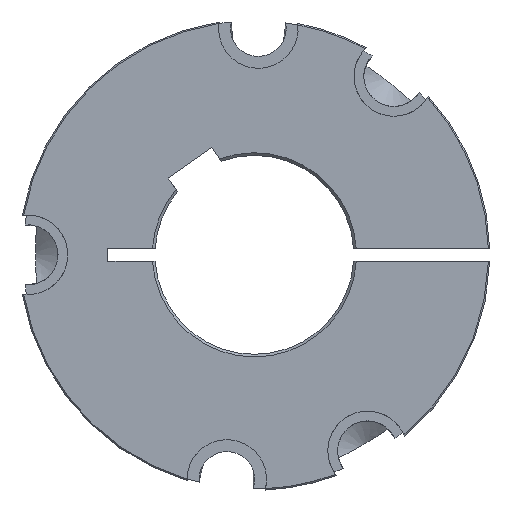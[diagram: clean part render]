
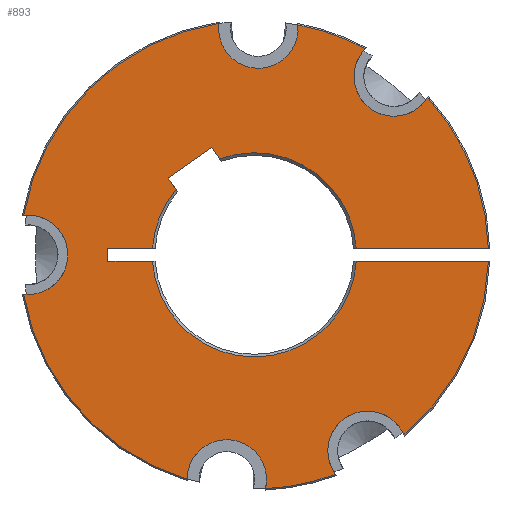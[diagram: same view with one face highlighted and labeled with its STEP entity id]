
A CAD part, left-side view. The second image highlights one B-rep face of the part: STEP entity #893.
In plain terms, the highlighted planar face has unit normal (-1, 0, 0).
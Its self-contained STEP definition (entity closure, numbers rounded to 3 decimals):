
#29=LINE('',#1469,#61);
#30=LINE('',#1473,#62);
#31=LINE('',#1475,#63);
#32=LINE('',#1477,#64);
#33=LINE('',#1481,#65);
#34=LINE('',#1485,#66);
#35=LINE('',#1489,#67);
#36=LINE('',#1493,#68);
#61=VECTOR('',#1110,49.806);
#62=VECTOR('',#1113,16.821);
#63=VECTOR('',#1114,5.);
#64=VECTOR('',#1115,16.821);
#65=VECTOR('',#1118,5.211);
#66=VECTOR('',#1121,19.98);
#67=VECTOR('',#1124,5.211);
#68=VECTOR('',#1127,49.806);
#173=FACE_OUTER_BOUND('',#224,.T.);
#224=EDGE_LOOP('',(#613,#614,#615,#616,#617,#618,#619,#620,#621,#622,#623,
#624,#625,#626,#627,#628,#629,#630,#631,#632,#633,#634,#635,#636));
#272=CIRCLE('',#945,15.);
#278=CIRCLE('',#954,15.);
#281=CIRCLE('',#959,88.26);
#282=CIRCLE('',#961,15.);
#283=CIRCLE('',#962,88.26);
#284=CIRCLE('',#963,88.26);
#285=CIRCLE('',#964,15.);
#286=CIRCLE('',#965,88.26);
#287=CIRCLE('',#966,38.5);
#288=CIRCLE('',#967,38.5);
#289=CIRCLE('',#968,0.01);
#290=CIRCLE('',#969,0.01);
#291=CIRCLE('',#970,38.5);
#292=CIRCLE('',#971,88.26);
#293=CIRCLE('',#972,15.);
#294=CIRCLE('',#973,88.26);
#337=VERTEX_POINT('',#1330);
#339=VERTEX_POINT('',#1344);
#349=VERTEX_POINT('',#1395);
#351=VERTEX_POINT('',#1409);
#357=VERTEX_POINT('',#1452);
#358=VERTEX_POINT('',#1459);
#359=VERTEX_POINT('',#1462);
#360=VERTEX_POINT('',#1464);
#361=VERTEX_POINT('',#1466);
#362=VERTEX_POINT('',#1468);
#363=VERTEX_POINT('',#1470);
#364=VERTEX_POINT('',#1472);
#365=VERTEX_POINT('',#1474);
#366=VERTEX_POINT('',#1476);
#367=VERTEX_POINT('',#1478);
#368=VERTEX_POINT('',#1480);
#369=VERTEX_POINT('',#1482);
#370=VERTEX_POINT('',#1484);
#371=VERTEX_POINT('',#1486);
#372=VERTEX_POINT('',#1488);
#373=VERTEX_POINT('',#1490);
#374=VERTEX_POINT('',#1492);
#375=VERTEX_POINT('',#1494);
#376=VERTEX_POINT('',#1496);
#438=EDGE_CURVE('',#337,#339,#272,.T.);
#452=EDGE_CURVE('',#349,#351,#278,.T.);
#460=EDGE_CURVE('',#357,#339,#281,.T.);
#461=EDGE_CURVE('',#357,#358,#282,.T.);
#462=EDGE_CURVE('',#349,#358,#283,.T.);
#463=EDGE_CURVE('',#359,#351,#284,.T.);
#464=EDGE_CURVE('',#359,#360,#285,.T.);
#465=EDGE_CURVE('',#361,#360,#286,.T.);
#466=EDGE_CURVE('',#361,#362,#29,.T.);
#467=EDGE_CURVE('',#362,#363,#287,.T.);
#468=EDGE_CURVE('',#363,#364,#30,.T.);
#469=EDGE_CURVE('',#364,#365,#31,.T.);
#470=EDGE_CURVE('',#365,#366,#32,.T.);
#471=EDGE_CURVE('',#366,#367,#288,.T.);
#472=EDGE_CURVE('',#367,#368,#33,.T.);
#473=EDGE_CURVE('',#368,#369,#289,.T.);
#474=EDGE_CURVE('',#369,#370,#34,.T.);
#475=EDGE_CURVE('',#370,#371,#290,.T.);
#476=EDGE_CURVE('',#371,#372,#35,.T.);
#477=EDGE_CURVE('',#372,#373,#291,.T.);
#478=EDGE_CURVE('',#373,#374,#36,.T.);
#479=EDGE_CURVE('',#375,#374,#292,.T.);
#480=EDGE_CURVE('',#375,#376,#293,.T.);
#481=EDGE_CURVE('',#337,#376,#294,.T.);
#613=ORIENTED_EDGE('',*,*,#438,.T.);
#614=ORIENTED_EDGE('',*,*,#460,.F.);
#615=ORIENTED_EDGE('',*,*,#461,.T.);
#616=ORIENTED_EDGE('',*,*,#462,.F.);
#617=ORIENTED_EDGE('',*,*,#452,.T.);
#618=ORIENTED_EDGE('',*,*,#463,.F.);
#619=ORIENTED_EDGE('',*,*,#464,.T.);
#620=ORIENTED_EDGE('',*,*,#465,.F.);
#621=ORIENTED_EDGE('',*,*,#466,.T.);
#622=ORIENTED_EDGE('',*,*,#467,.T.);
#623=ORIENTED_EDGE('',*,*,#468,.T.);
#624=ORIENTED_EDGE('',*,*,#469,.T.);
#625=ORIENTED_EDGE('',*,*,#470,.T.);
#626=ORIENTED_EDGE('',*,*,#471,.T.);
#627=ORIENTED_EDGE('',*,*,#472,.T.);
#628=ORIENTED_EDGE('',*,*,#473,.T.);
#629=ORIENTED_EDGE('',*,*,#474,.T.);
#630=ORIENTED_EDGE('',*,*,#475,.T.);
#631=ORIENTED_EDGE('',*,*,#476,.T.);
#632=ORIENTED_EDGE('',*,*,#477,.T.);
#633=ORIENTED_EDGE('',*,*,#478,.T.);
#634=ORIENTED_EDGE('',*,*,#479,.F.);
#635=ORIENTED_EDGE('',*,*,#480,.T.);
#636=ORIENTED_EDGE('',*,*,#481,.F.);
#873=PLANE('',#960);
#893=ADVANCED_FACE('',(#173),#873,.T.);
#945=AXIS2_PLACEMENT_3D('',#1349,#1068,#1069);
#954=AXIS2_PLACEMENT_3D('',#1414,#1086,#1087);
#959=AXIS2_PLACEMENT_3D('',#1457,#1096,#1097);
#960=AXIS2_PLACEMENT_3D('',#1458,#1098,#1099);
#961=AXIS2_PLACEMENT_3D('',#1460,#1100,#1101);
#962=AXIS2_PLACEMENT_3D('',#1461,#1102,#1103);
#963=AXIS2_PLACEMENT_3D('',#1463,#1104,#1105);
#964=AXIS2_PLACEMENT_3D('',#1465,#1106,#1107);
#965=AXIS2_PLACEMENT_3D('',#1467,#1108,#1109);
#966=AXIS2_PLACEMENT_3D('',#1471,#1111,#1112);
#967=AXIS2_PLACEMENT_3D('',#1479,#1116,#1117);
#968=AXIS2_PLACEMENT_3D('',#1483,#1119,#1120);
#969=AXIS2_PLACEMENT_3D('',#1487,#1122,#1123);
#970=AXIS2_PLACEMENT_3D('',#1491,#1125,#1126);
#971=AXIS2_PLACEMENT_3D('',#1495,#1128,#1129);
#972=AXIS2_PLACEMENT_3D('',#1497,#1130,#1131);
#973=AXIS2_PLACEMENT_3D('',#1498,#1132,#1133);
#1068=DIRECTION('center_axis',(1.,0.,0.));
#1069=DIRECTION('ref_axis',(0.,0.,1.));
#1086=DIRECTION('center_axis',(1.,0.,0.));
#1087=DIRECTION('ref_axis',(0.,0.,1.));
#1096=DIRECTION('center_axis',(1.,0.,0.));
#1097=DIRECTION('ref_axis',(0.,0.,-1.));
#1098=DIRECTION('center_axis',(-1.,0.,0.));
#1099=DIRECTION('ref_axis',(0.,0.,1.));
#1100=DIRECTION('center_axis',(1.,0.,0.));
#1101=DIRECTION('ref_axis',(0.,0.,1.));
#1102=DIRECTION('center_axis',(1.,0.,0.));
#1103=DIRECTION('ref_axis',(0.,0.,-1.));
#1104=DIRECTION('center_axis',(1.,0.,0.));
#1105=DIRECTION('ref_axis',(0.,0.,-1.));
#1106=DIRECTION('center_axis',(1.,0.,0.));
#1107=DIRECTION('ref_axis',(0.,0.,1.));
#1108=DIRECTION('center_axis',(1.,0.,0.));
#1109=DIRECTION('ref_axis',(0.,0.,-1.));
#1110=DIRECTION('',(0.,1.,0.));
#1111=DIRECTION('center_axis',(1.,0.,0.));
#1112=DIRECTION('ref_axis',(0.,0.,-1.));
#1113=DIRECTION('',(0.,1.,0.));
#1114=DIRECTION('',(0.,0.,1.));
#1115=DIRECTION('',(0.,-1.,0.));
#1116=DIRECTION('center_axis',(1.,0.,0.));
#1117=DIRECTION('ref_axis',(0.,0.,-1.));
#1118=DIRECTION('',(0.,0.574,0.819));
#1119=DIRECTION('center_axis',(1.,0.,0.));
#1120=DIRECTION('ref_axis',(0.,-0.574,-0.819));
#1121=DIRECTION('',(0.,-0.819,0.574));
#1122=DIRECTION('center_axis',(1.,0.,0.));
#1123=DIRECTION('ref_axis',(0.,0.819,-0.574));
#1124=DIRECTION('',(0.,-0.574,-0.819));
#1125=DIRECTION('center_axis',(1.,0.,0.));
#1126=DIRECTION('ref_axis',(0.,0.,-1.));
#1127=DIRECTION('',(0.,-1.,0.));
#1128=DIRECTION('center_axis',(1.,0.,0.));
#1129=DIRECTION('ref_axis',(0.,0.,-1.));
#1130=DIRECTION('center_axis',(1.,0.,0.));
#1131=DIRECTION('ref_axis',(0.,0.,1.));
#1132=DIRECTION('center_axis',(1.,0.,0.));
#1133=DIRECTION('ref_axis',(0.,0.,-1.));
#1330=CARTESIAN_POINT('',(-8.87,54.773,86.718));
#1344=CARTESIAN_POINT('',(-8.87,84.589,87.239));
#1349=CARTESIAN_POINT('Origin',(-8.87,69.71,85.337));
#1395=CARTESIAN_POINT('',(-8.87,96.6,-84.526));
#1409=CARTESIAN_POINT('',(-8.87,67.002,-88.16));
#1414=CARTESIAN_POINT('Origin',(-8.87,81.601,-84.714));
#1452=CARTESIAN_POINT('',(-8.87,158.191,14.91));
#1457=CARTESIAN_POINT('Origin',(-8.87,71.199,0.));
#1458=CARTESIAN_POINT('Origin',(-8.87,159.459,0.));
#1459=CARTESIAN_POINT('',(-8.87,158.191,-14.91));
#1460=CARTESIAN_POINT('Origin',(-8.87,156.549,0.));
#1461=CARTESIAN_POINT('Origin',(-8.87,71.199,0.));
#1462=CARTESIAN_POINT('',(-8.87,40.616,-82.792));
#1463=CARTESIAN_POINT('Origin',(-8.87,71.199,0.));
#1464=CARTESIAN_POINT('',(-8.87,14.791,-67.882));
#1465=CARTESIAN_POINT('Origin',(-8.87,28.524,-73.915));
#1466=CARTESIAN_POINT('',(-8.87,-17.025,-2.5));
#1467=CARTESIAN_POINT('Origin',(-8.87,71.199,0.));
#1468=CARTESIAN_POINT('',(-8.87,32.78,-2.5));
#1469=CARTESIAN_POINT('',(-8.87,96.621,-2.5));
#1470=CARTESIAN_POINT('',(-8.87,109.618,-2.5));
#1471=CARTESIAN_POINT('Origin',(-8.87,71.199,0.));
#1472=CARTESIAN_POINT('',(-8.87,126.439,-2.5));
#1473=CARTESIAN_POINT('',(-8.87,134.539,-2.5));
#1474=CARTESIAN_POINT('',(-8.87,126.439,2.5));
#1475=CARTESIAN_POINT('',(-8.87,126.439,1.25));
#1476=CARTESIAN_POINT('',(-8.87,109.618,2.5));
#1477=CARTESIAN_POINT('',(-8.87,134.038,2.5));
#1478=CARTESIAN_POINT('',(-8.87,100.716,24.719));
#1479=CARTESIAN_POINT('Origin',(-8.87,71.199,0.));
#1480=CARTESIAN_POINT('',(-8.87,103.705,28.988));
#1481=CARTESIAN_POINT('',(-8.87,104.571,30.226));
#1482=CARTESIAN_POINT('',(-8.87,103.702,29.002));
#1483=CARTESIAN_POINT('Origin',(-8.87,103.696,28.994));
#1484=CARTESIAN_POINT('',(-8.87,87.336,40.462));
#1485=CARTESIAN_POINT('',(-8.87,121.039,16.863));
#1486=CARTESIAN_POINT('',(-8.87,87.322,40.46));
#1487=CARTESIAN_POINT('Origin',(-8.87,87.33,40.454));
#1488=CARTESIAN_POINT('',(-8.87,84.332,36.191));
#1489=CARTESIAN_POINT('',(-8.87,87.891,41.273));
#1490=CARTESIAN_POINT('',(-8.87,32.78,2.5));
#1491=CARTESIAN_POINT('Origin',(-8.87,71.199,0.));
#1492=CARTESIAN_POINT('',(-8.87,-17.025,2.5));
#1493=CARTESIAN_POINT('',(-8.87,96.12,2.5));
#1494=CARTESIAN_POINT('',(-8.87,5.893,59.371));
#1495=CARTESIAN_POINT('Origin',(-8.87,71.199,0.));
#1496=CARTESIAN_POINT('',(-8.87,29.391,77.73));
#1497=CARTESIAN_POINT('Origin',(-8.87,18.653,67.257));
#1498=CARTESIAN_POINT('Origin',(-8.87,71.199,0.));
